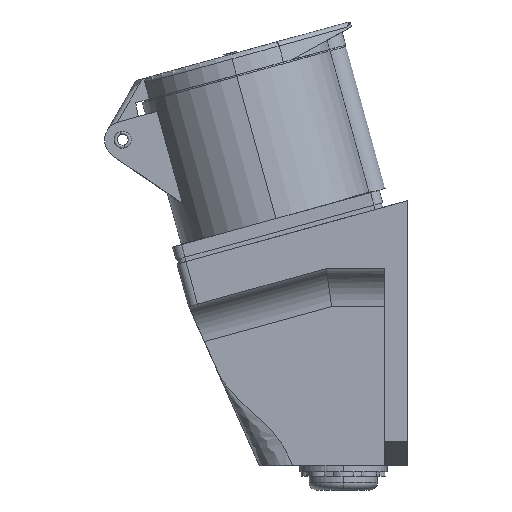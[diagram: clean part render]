
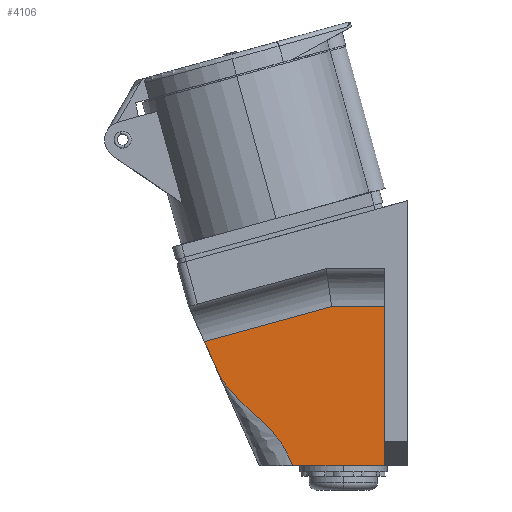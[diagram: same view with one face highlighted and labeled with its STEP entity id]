
A CAD part, left-side view. The second image highlights one B-rep face of the part: STEP entity #4106.
In plain terms, the highlighted planar face has unit normal (-1, 0, 0).
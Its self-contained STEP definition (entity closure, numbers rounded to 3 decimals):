
#206 = FACE_OUTER_BOUND ( 'NONE', #16602, .T. ) ;
#224 = AXIS2_PLACEMENT_3D ( 'NONE', #11786, #11787, #11788 ) ;
#1684 = ORIENTED_EDGE ( 'NONE', *, *, #16681, .T. ) ;
#1685 = ORIENTED_EDGE ( 'NONE', *, *, #3133, .T. ) ;
#1686 = ORIENTED_EDGE ( 'NONE', *, *, #16680, .T. ) ;
#1687 = ORIENTED_EDGE ( 'NONE', *, *, #16682, .F. ) ;
#1689 = ORIENTED_EDGE ( 'NONE', *, *, #16683, .T. ) ;
#3133 = EDGE_CURVE ( 'NONE', #4892, #4949, #10931, .T. ) ;
#4106 = ADVANCED_FACE ( 'NONE', ( #206 ), #11785, .F. ) ;
#4270 = VECTOR ( 'NONE', #14906, 1000. ) ;
#4367 = VECTOR ( 'NONE', #14903, 1000. ) ;
#4386 = VECTOR ( 'NONE', #14900, 1000. ) ;
#4680 = B_SPLINE_CURVE_WITH_KNOTS ( 'NONE', 3,
 ( #14886, #14887, #14889, #14890, #14891, #14892, #14893, #14894, #14895, #14896 ),
 .UNSPECIFIED., .F., .F.,
 ( 4, 3, 3, 4 ),
 ( -0.045, -0.033, 0., 0.004 ),
 .UNSPECIFIED. ) ;
#4839 = VERTEX_POINT ( 'NONE', #12309 ) ;
#4866 = VERTEX_POINT ( 'NONE', #12336 ) ;
#4892 = VERTEX_POINT ( 'NONE', #12362 ) ;
#4948 = VERTEX_POINT ( 'NONE', #12418 ) ;
#4949 = VERTEX_POINT ( 'NONE', #12419 ) ;
#10931 = LINE ( 'NONE', #10932, #16947 ) ;
#10932 = CARTESIAN_POINT ( 'NONE',  ( -23., 0., -43.6 ) ) ;
#10933 = DIRECTION ( 'NONE',  ( 0., -1., 0. ) ) ;
#11785 = PLANE ( 'NONE',  #224 ) ;
#11786 = CARTESIAN_POINT ( 'NONE',  ( -23., 8.162, -45.848 ) ) ;
#11787 = DIRECTION ( 'NONE',  ( 1., 0., 0. ) ) ;
#11788 = DIRECTION ( 'NONE',  ( 0., 0., 1. ) ) ;
#12309 = CARTESIAN_POINT ( 'NONE',  ( -23., 66.826, -2.784 ) ) ;
#12336 = CARTESIAN_POINT ( 'NONE',  ( -23., 24.954, 8.749 ) ) ;
#12362 = CARTESIAN_POINT ( 'NONE',  ( -23., 37.758, -43.6 ) ) ;
#12418 = CARTESIAN_POINT ( 'NONE',  ( -23., 7.5, 8.749 ) ) ;
#12419 = CARTESIAN_POINT ( 'NONE',  ( -23., 7.5, -43.6 ) ) ;
#14886 = CARTESIAN_POINT ( 'NONE',  ( -23., 66.826, -2.784 ) ) ;
#14887 = CARTESIAN_POINT ( 'NONE',  ( -23., 65.285, -6.172 ) ) ;
#14889 = CARTESIAN_POINT ( 'NONE',  ( -23., 63.744, -9.56 ) ) ;
#14890 = CARTESIAN_POINT ( 'NONE',  ( -23., 62.203, -12.948 ) ) ;
#14891 = CARTESIAN_POINT ( 'NONE',  ( -23., 57.58, -23.111 ) ) ;
#14892 = CARTESIAN_POINT ( 'NONE',  ( -23., 44.092, -29.337 ) ) ;
#14893 = CARTESIAN_POINT ( 'NONE',  ( -23., 39.561, -39.541 ) ) ;
#14894 = CARTESIAN_POINT ( 'NONE',  ( -23., 38.96, -40.894 ) ) ;
#14895 = CARTESIAN_POINT ( 'NONE',  ( -23., 38.359, -42.247 ) ) ;
#14896 = CARTESIAN_POINT ( 'NONE',  ( -23., 37.758, -43.6 ) ) ;
#14898 = LINE ( 'NONE', #14899, #4386 ) ;
#14899 = CARTESIAN_POINT ( 'NONE',  ( -23., 68.637, -3.283 ) ) ;
#14900 = DIRECTION ( 'NONE',  ( 0., 0.964, -0.266 ) ) ;
#14901 = LINE ( 'NONE', #14902, #4367 ) ;
#14902 = CARTESIAN_POINT ( 'NONE',  ( -23., 7.5, -43.6 ) ) ;
#14903 = DIRECTION ( 'NONE',  ( 0., 0., -1. ) ) ;
#14904 = LINE ( 'NONE', #14905, #4270 ) ;
#14905 = CARTESIAN_POINT ( 'NONE',  ( -23., 26.644, 8.749 ) ) ;
#14906 = DIRECTION ( 'NONE',  ( 0., 1., 0. ) ) ;
#16602 = EDGE_LOOP ( 'NONE', ( #1684, #1686, #1685, #1687, #1689 ) ) ;
#16680 = EDGE_CURVE ( 'NONE', #4839, #4892, #4680, .T. ) ;
#16681 = EDGE_CURVE ( 'NONE', #4866, #4839, #14898, .T. ) ;
#16682 = EDGE_CURVE ( 'NONE', #4948, #4949, #14901, .T. ) ;
#16683 = EDGE_CURVE ( 'NONE', #4948, #4866, #14904, .T. ) ;
#16947 = VECTOR ( 'NONE', #10933, 1000. ) ;
